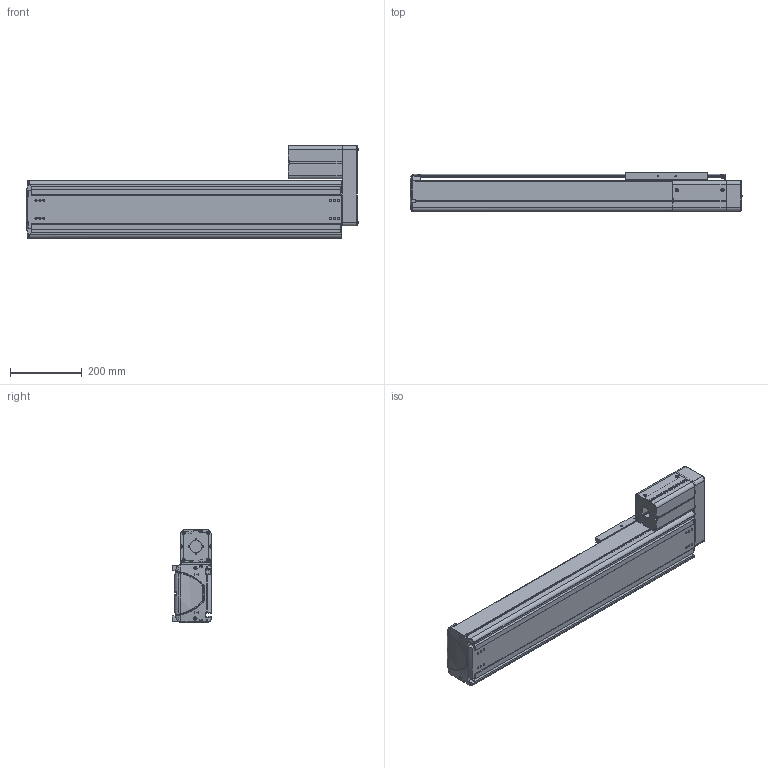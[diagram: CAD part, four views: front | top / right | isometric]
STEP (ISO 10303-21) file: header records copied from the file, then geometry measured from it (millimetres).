
FILE_DESCRIPTION((''),'2;1');
FILE_NAME('BE50F-UR-L_N-55_IGS_PRT','2017-06-18T',(' '),(''),'PRO/ENGINEER BY PARAMETRIC TECHNOLOGY CORPORATION, 2015030','PRO/ENGINEER BY PARAMETRIC TECHNOLOGY CORPORATION, 2015030','');
FILE_SCHEMA(('CONFIG_CONTROL_DESIGN'));
Length unit declared in the file: millimetre
Products named in the file (1): BE50F-UR-L_N-55_IGS_PRT
Bounding box: 925.88 x 110 x 257 mm (x, y, z)
Volume: 4642838.5 mm3; surface area: 1696524.3 mm2
Topology: 2 solids, 123 shells, 2191 faces, 5943 edges, 3873 vertices
Faces by surface type: plane 1008, cylinder 919, cone 125, torus 59, bspline 48, sphere 32
Entity records: 72283 total; most frequent: CARTESIAN_POINT 16395, DIRECTION 11738, ORIENTED_EDGE 11340, EDGE_CURVE 5898, AXIS2_PLACEMENT_3D 4181, VERTEX_POINT 3872, VECTOR 3376, LINE 3376
